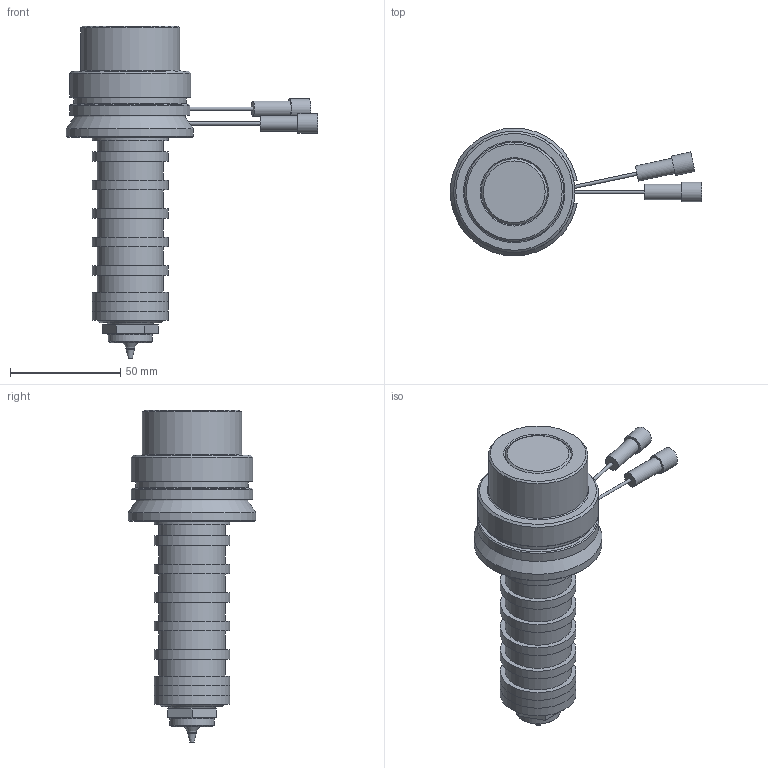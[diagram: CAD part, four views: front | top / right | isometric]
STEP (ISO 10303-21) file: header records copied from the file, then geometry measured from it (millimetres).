
FILE_DESCRIPTION(('STEP AP214'),'1');
FILE_NAME('FLS10-A.stp','2018-06-12T08:04:10',(' '),(' '),'Spatial InterOp 3D',' ',' ');
FILE_SCHEMA(('AUTOMOTIVE_DESIGN { 1 0 10303 214 1 1 1 1 }'));
Length unit declared in the file: millimetre
Products named in the file (1): 1
Bounding box: 114 x 58 x 150.5 mm (x, y, z)
Volume: 168448.7 mm3; surface area: 39233.4 mm2
Topology: 2 solids, 2 shells, 130 faces, 269 edges, 165 vertices
Faces by surface type: plane 62, cylinder 44, cone 15, torus 4, revolution 4, sphere 1
Full cylindrical faces by diameter (mm): 1.4 x1, 1.5 x2, 7 x2, 9 x2, 30 x8, 34.4 x16, 36 x1, 45 x1, 51 x1, 55 x1
Entity records: 4223 total; most frequent: CARTESIAN_POINT 644, DIRECTION 555, ORIENTED_EDGE 406, AXIS2_PLACEMENT_3D 237, EDGE_LOOP 208, EDGE_CURVE 203, FACE_OUTER_BOUND 171, VERTEX_POINT 153
